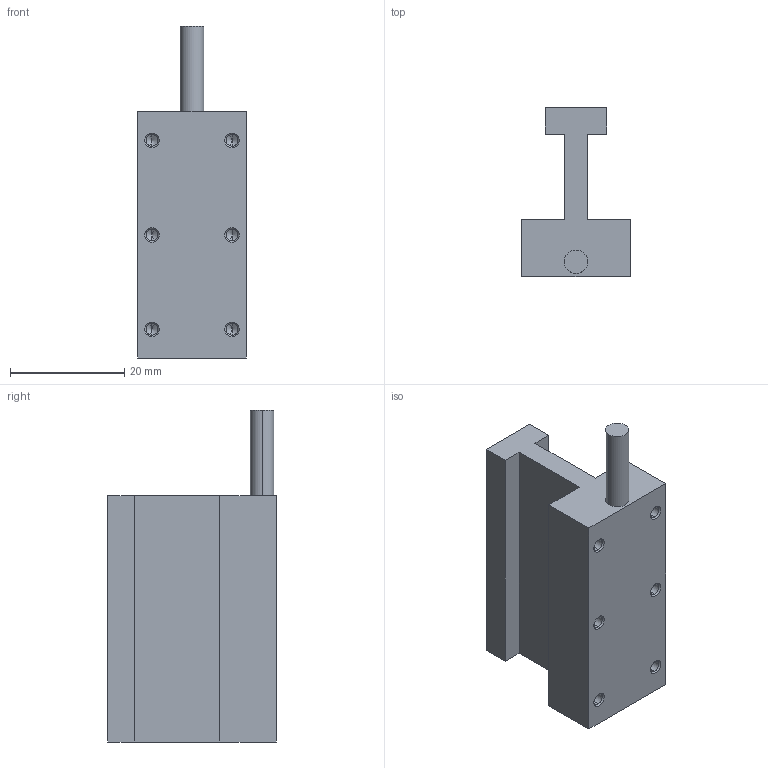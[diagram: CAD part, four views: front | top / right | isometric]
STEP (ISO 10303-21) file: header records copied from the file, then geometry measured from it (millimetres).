
FILE_DESCRIPTION (( 'STEP AP214' ), '1' );
FILE_NAME ('JKA12.STEP', '2025-09-05T12:35:24', ( '' ), ( '' ), 'SwSTEP 2.0', 'SolidWorks 2016', '' );
FILE_SCHEMA (( 'AUTOMOTIVE_DESIGN' ));
Length unit declared in the file: millimetre
Products named in the file (1): JKA12
Bounding box: 19 x 29.5 x 58 mm (x, y, z)
Volume: 12863.4 mm3; surface area: 5742.9 mm2
Topology: 1 solids, 1 shells, 53 faces, 126 edges, 70 vertices
Faces by surface type: cone 24, plane 15, cylinder 14
Entity records: 1590 total; most frequent: DIRECTION 262, CARTESIAN_POINT 238, ORIENTED_EDGE 228, EDGE_CURVE 114, AXIS2_PLACEMENT_3D 94, VECTOR 74, LINE 74, VERTEX_POINT 70
